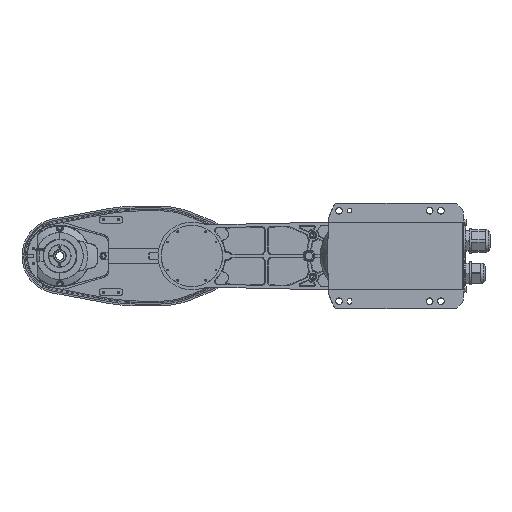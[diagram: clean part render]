
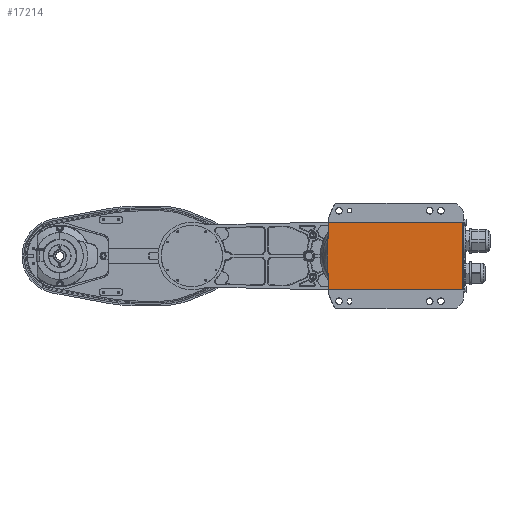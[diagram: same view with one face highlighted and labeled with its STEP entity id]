
A CAD part, front view. The second image highlights one B-rep face of the part: STEP entity #17214.
In plain terms, the highlighted planar face has unit normal (0, -1, 0).
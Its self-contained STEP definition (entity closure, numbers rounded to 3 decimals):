
#231 = CARTESIAN_POINT ( 'NONE',  ( -44.232, 2., 44.017 ) ) ;
#4207 = CARTESIAN_POINT ( 'NONE',  ( -44.232, 2., 44.017 ) ) ;
#5153 = DIRECTION ( 'NONE',  ( -1., 0., 0. ) ) ;
#5697 = DIRECTION ( 'NONE',  ( 0.017, 0., -1. ) ) ;
#6262 = CARTESIAN_POINT ( 'NONE',  ( -44.232, 2., -44.017 ) ) ;
#8016 = ORIENTED_EDGE ( 'NONE', *, *, #30330, .F. ) ;
#11375 = DIRECTION ( 'NONE',  ( 0., 1., 0. ) ) ;
#17214 = ADVANCED_FACE ( 'NONE', ( #69254 ), #84167, .F. ) ;
#19887 = DIRECTION ( 'NONE',  ( 1., 0., 0. ) ) ;
#21461 = EDGE_CURVE ( 'NONE', #55844, #73658, #39591, .T. ) ;
#21652 = ORIENTED_EDGE ( 'NONE', *, *, #21461, .T. ) ;
#22709 = CARTESIAN_POINT ( 'NONE',  ( -45., 2., 0. ) ) ;
#26686 = DIRECTION ( 'NONE',  ( 0., 0., 1. ) ) ;
#26955 = ORIENTED_EDGE ( 'NONE', *, *, #27713, .F. ) ;
#27713 = EDGE_CURVE ( 'NONE', #55844, #57149, #68899, .T. ) ;
#28103 = DIRECTION ( 'NONE',  ( -0.017, 0., -1. ) ) ;
#30330 = EDGE_CURVE ( 'NONE', #80745, #73658, #76988, .T. ) ;
#36694 = CARTESIAN_POINT ( 'NONE',  ( 135., 2., -44.017 ) ) ;
#39591 = LINE ( 'NONE', #95966, #55929 ) ;
#44549 = CARTESIAN_POINT ( 'NONE',  ( -44.232, 2., 44.017 ) ) ;
#45116 = AXIS2_PLACEMENT_3D ( 'NONE', #100713, #11375, #19887 ) ;
#45633 = DIRECTION ( 'NONE',  ( 1., 0., 0. ) ) ;
#48040 = EDGE_CURVE ( 'NONE', #80745, #93311, #84953, .T. ) ;
#55844 = VERTEX_POINT ( 'NONE', #36694 ) ;
#55929 = VECTOR ( 'NONE', #26686, 1000. ) ;
#57149 = VERTEX_POINT ( 'NONE', #6262 ) ;
#57261 = ORIENTED_EDGE ( 'NONE', *, *, #48040, .T. ) ;
#61818 = VECTOR ( 'NONE', #28103, 1000. ) ;
#62328 = VECTOR ( 'NONE', #5697, 1000. ) ;
#65821 = CARTESIAN_POINT ( 'NONE',  ( 135., 2., 44.017 ) ) ;
#67864 = VECTOR ( 'NONE', #5153, 1000. ) ;
#68080 = VECTOR ( 'NONE', #45633, 1000. ) ;
#68899 = LINE ( 'NONE', #93388, #67864 ) ;
#69254 = FACE_OUTER_BOUND ( 'NONE', #74495, .T. ) ;
#73658 = VERTEX_POINT ( 'NONE', #65821 ) ;
#74495 = EDGE_LOOP ( 'NONE', ( #80151, #26955, #21652, #8016, #57261 ) ) ;
#76988 = LINE ( 'NONE', #4207, #68080 ) ;
#78479 = LINE ( 'NONE', #22709, #62328 ) ;
#80151 = ORIENTED_EDGE ( 'NONE', *, *, #100911, .T. ) ;
#80745 = VERTEX_POINT ( 'NONE', #231 ) ;
#84167 = PLANE ( 'NONE',  #45116 ) ;
#84953 = LINE ( 'NONE', #44549, #61818 ) ;
#90601 = CARTESIAN_POINT ( 'NONE',  ( -45., 2., 0. ) ) ;
#93311 = VERTEX_POINT ( 'NONE', #90601 ) ;
#93388 = CARTESIAN_POINT ( 'NONE',  ( 135., 2., -44.017 ) ) ;
#95966 = CARTESIAN_POINT ( 'NONE',  ( 135., 2., -44.017 ) ) ;
#100713 = CARTESIAN_POINT ( 'NONE',  ( 135., 2., 44.017 ) ) ;
#100911 = EDGE_CURVE ( 'NONE', #93311, #57149, #78479, .T. ) ;
